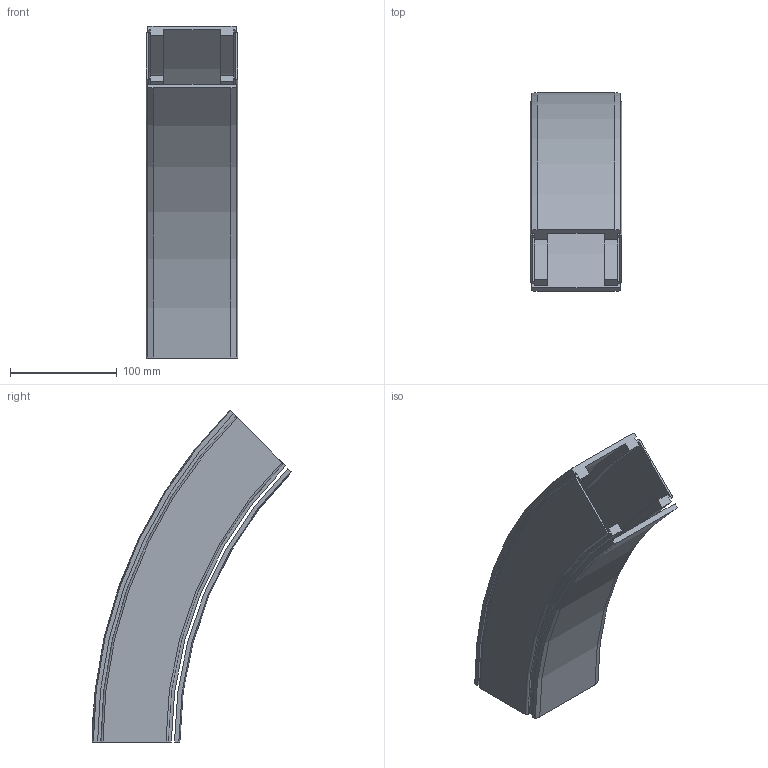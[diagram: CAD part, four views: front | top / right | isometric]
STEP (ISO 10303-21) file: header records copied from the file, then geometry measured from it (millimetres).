
FILE_DESCRIPTION((''),'2;1');
FILE_NAME('C:\Vault Klient\Projekt\Koncept konstruktion\Serie 530 Balk\530-5620_DOWN.stp','2010-11-23T11:22:12',('Mathias'),(''),'Autodesk Inventor 2011','Autodesk Inventor 2011','');
FILE_SCHEMA(('AUTOMOTIVE_DESIGN { 1 0 10303 214 1 1 1 1 }'));
Length unit declared in the file: millimetre
Products named in the file (1): 530-5620_DOWN
Bounding box: 86 x 186.71 x 310.77 mm (x, y, z)
Volume: 465421.3 mm3; surface area: 227081.1 mm2
Topology: 2 solids, 2 shells, 87 faces, 234 edges, 156 vertices
Faces by surface type: plane 40, cylinder 25, bspline 14, cone 4, torus 4
Entity records: 3154 total; most frequent: CARTESIAN_POINT 916, ORIENTED_EDGE 468, DIRECTION 428, EDGE_CURVE 234, VERTEX_POINT 156, AXIS2_PLACEMENT_3D 148, VECTOR 132, LINE 132
